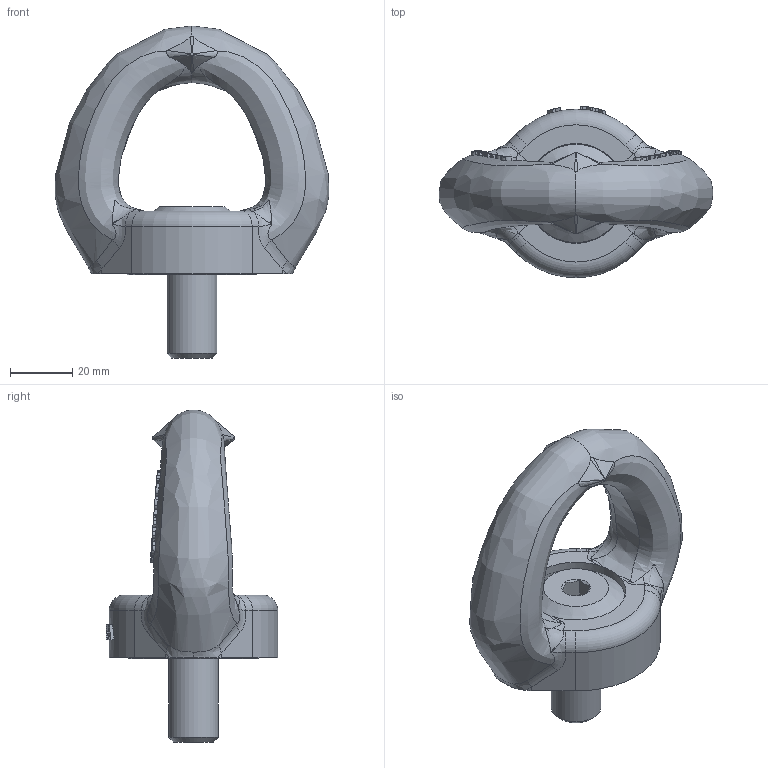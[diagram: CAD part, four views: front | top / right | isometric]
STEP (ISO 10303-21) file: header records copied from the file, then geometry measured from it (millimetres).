
FILE_DESCRIPTION(/* description */ (''),/* implementation_level */ '2;1');
FILE_NAME(/* name */ 'W:\CODIPRO\DOCUMENTS\Plans A NE PAS DIFFUSER !!!\Inventor\Standard Inventor\Produit Fini Inventor\SS_SEB\SS SEB M16.stp',/* time_stamp */ '2017-10-06T08:19:09+02:00',/* author */ ('rklenes'),/* organization */ (''),/* preprocessor_version */ 'ST-DEVELOPER v16.5',/* originating_system */ 'Autodesk Inventor 2017',/* authorisation */ '');
FILE_SCHEMA (('AUTOMOTIVE_DESIGN { 1 0 10303 214 3 1 1 }'));
Length unit declared in the file: millimetre
Products named in the file (4): SS SEB M16; SEM_2; SEE_M16A; SEA_M16X41
Assembly tree (3 placements, depth 2):
  SS SEB M16
    SEM_2
    SEE_M16A
    SEA_M16X41
Bounding box: 87.76 x 54.96 x 106.4 mm (x, y, z)
Volume: 105618.2 mm3; surface area: 26839.1 mm2
Topology: 3 solids, 3 shells, 414 faces, 1077 edges, 694 vertices
Faces by surface type: bspline 210, plane 143, cylinder 31, cone 24, torus 6
Full cylindrical faces by diameter (mm): 2 x1, 16 x3, 16.2 x1, 26 x3, 32 x2, 42 x2
Entity records: 25497 total; most frequent: CARTESIAN_POINT 16604, ORIENTED_EDGE 2064, DIRECTION 1307, EDGE_CURVE 1032, VERTEX_POINT 687, AXIS2_PLACEMENT_3D 493, EDGE_LOOP 483, B_SPLINE_CURVE_WITH_KNOTS 423
